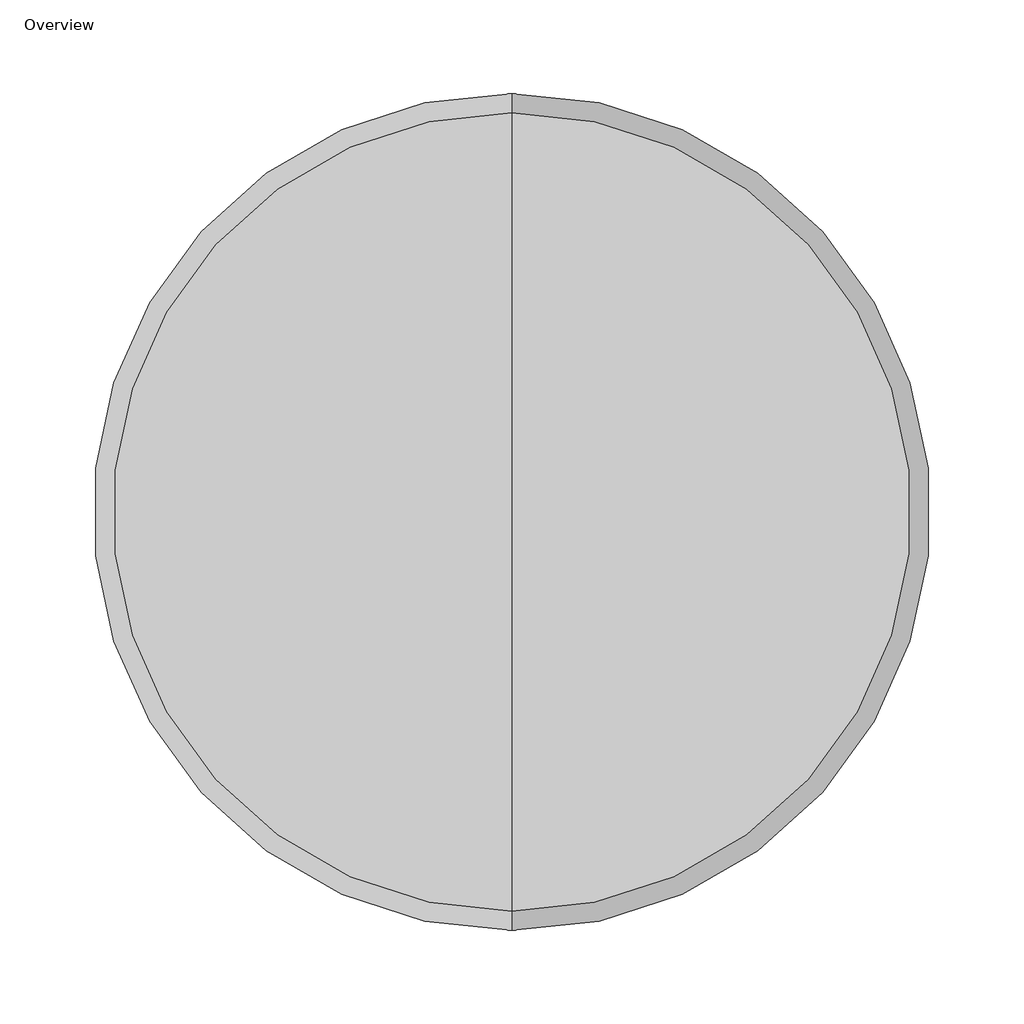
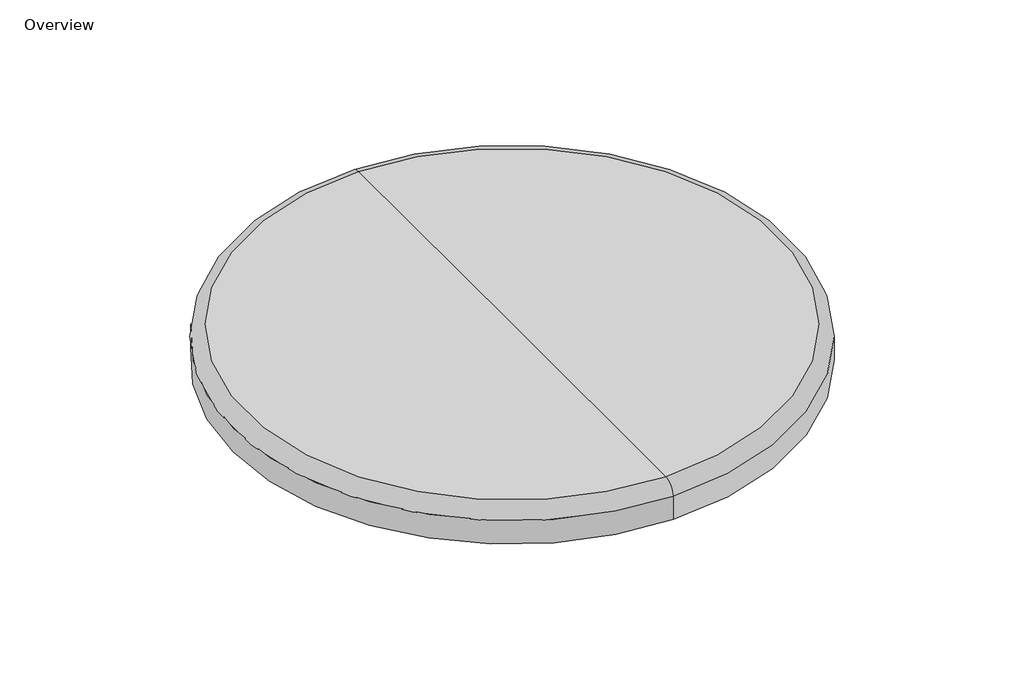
# One storey, incomplete: 1 furniture element.
"""IFC4 building model written with IfcOpenShell, lengths in millimetres."""

from ifc_helpers import new_model, si_unit, origin, place, context, project, spatial, transform, mapped, element, save
from components import cap_f8d5f5fa

model = new_model("IFC4")

# Units and contexts
model_context = context("Model", 3, world=origin())
ifc_project = project(units=[si_unit("LENGTHUNIT", "METRE", prefix="MILLI")], contexts=[model_context])

# Site, building, storey
site = spatial("IfcSite", under=ifc_project)
building = spatial("IfcBuilding", under=site)
storey = spatial("IfcBuildingStorey", under=building, Name="Overview", Elevation=0.0)

# Furniture
placement = place(None, origin())
cap_shape = cap_f8d5f5fa(model_context)
element("IfcFurniture", 1, ObjectType="Steelcase Turnstone - Buoy - Seating - Cap : Cap", at=placement, inside=storey, context=model_context, shape_type="MappedRepresentation", body=[
    mapped(cap_shape, transform((-17163.9208818, 5214.780711, 0.0), x_axis=(1.0, 0.0, 0.0), y_axis=(0.0, 1.0, 0.0), z_axis=(0.0, 0.0, 1.0))),
])

save(model, "model.ifc")
